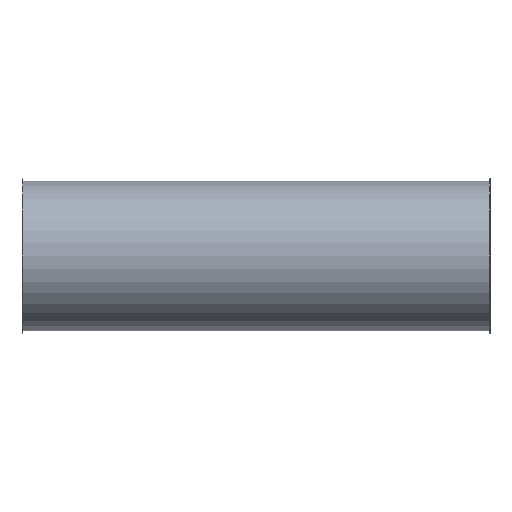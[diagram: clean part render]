
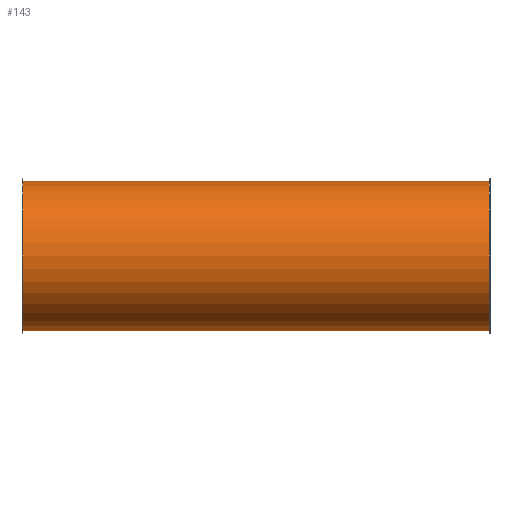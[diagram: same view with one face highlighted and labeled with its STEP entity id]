
A CAD part, front view. The second image highlights one B-rep face of the part: STEP entity #143.
In plain terms, the highlighted cylindrical face has radius 158 mm (diameter 316 mm), a full revolution.
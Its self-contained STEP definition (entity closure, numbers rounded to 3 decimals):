
#112=CARTESIAN_POINT('',(952.119,2.817,0.0));
#113=VERTEX_POINT('',#112);
#114=CARTESIAN_POINT('',(952.119,160.817,0.0));
#115=DIRECTION('',(-1.0,0.0,0.0));
#116=DIRECTION('',(0.0,-1.0,0.0));
#117=AXIS2_PLACEMENT_3D('',#114,#115,#116);
#118=CIRCLE('',#117,158.);
#119=EDGE_CURVE('',#113,#113,#118,.T.);
#124=CARTESIAN_POINT('',(461.119,160.817,0.0));
#125=DIRECTION('',(-1.0,0.,0.0));
#126=DIRECTION('',(0.0,-1.0,0.0));
#127=AXIS2_PLACEMENT_3D('',#124,#125,#126);
#128=CYLINDRICAL_SURFACE('',#127,158.);
#129=CARTESIAN_POINT('',(-29.881,2.817,0.0));
#130=VERTEX_POINT('',#129);
#131=CARTESIAN_POINT('',(-29.881,160.817,0.0));
#132=DIRECTION('',(-1.0,0.0,0.0));
#133=DIRECTION('',(0.0,-1.0,0.0));
#134=AXIS2_PLACEMENT_3D('',#131,#132,#133);
#135=CIRCLE('',#134,158.);
#136=EDGE_CURVE('',#130,#130,#135,.T.);
#137=ORIENTED_EDGE('',*,*,#136,.F.);
#138=EDGE_LOOP('',(#137));
#139=FACE_OUTER_BOUND('',#138,.T.);
#140=ORIENTED_EDGE('',*,*,#119,.T.);
#141=EDGE_LOOP('',(#140));
#142=FACE_BOUND('',#141,.T.);
#143=ADVANCED_FACE('',(#139,#142),#128,.T.);
